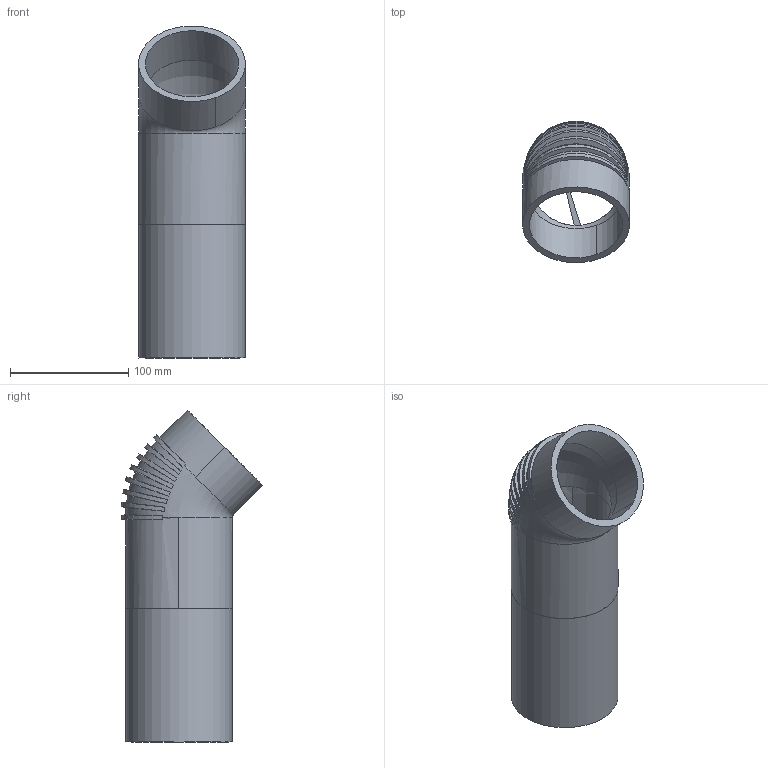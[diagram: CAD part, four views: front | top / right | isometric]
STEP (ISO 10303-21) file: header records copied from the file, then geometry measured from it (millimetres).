
FILE_DESCRIPTION(/* description */ (''),/* implementation_level */ '2;1');
FILE_NAME(/* name */ 'C:\Planerdaten\Export PLA\308.014.14.1\stp\308014.stp',/* time_stamp */ '2019-10-04T07:32:34+02:00',/* author */ ('JANAN'),/* organization */ (''),/* preprocessor_version */ 'ST-DEVELOPER v16.13',/* originating_system */ 'Autodesk Inventor 2018',/* authorisation */ '');
FILE_SCHEMA (('AUTOMOTIVE_DESIGN { 1 0 10303 214 3 1 1 }'));
Length unit declared in the file: millimetre
Products named in the file (1): Bogen PE-S2 45G d90 L21/5.5 geschw
Bounding box: 90.38 x 119.56 x 280.83 mm (x, y, z)
Volume: 405611.4 mm3; surface area: 148071.9 mm2
Topology: 1 solids, 1 shells, 46 faces, 129 edges, 87 vertices
Faces by surface type: cone 16, bspline 12, cylinder 12, plane 4, torus 2
Full cylindrical faces by diameter (mm): 79 x1, 90 x1
Entity records: 5520 total; most frequent: CARTESIAN_POINT 4462, ORIENTED_EDGE 212, DIRECTION 163, EDGE_CURVE 106, VERTEX_POINT 73, AXIS2_PLACEMENT_3D 71, EDGE_LOOP 59, B_SPLINE_CURVE_WITH_KNOTS 49
